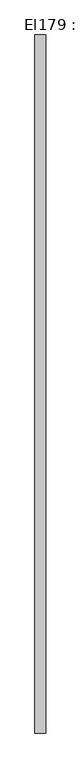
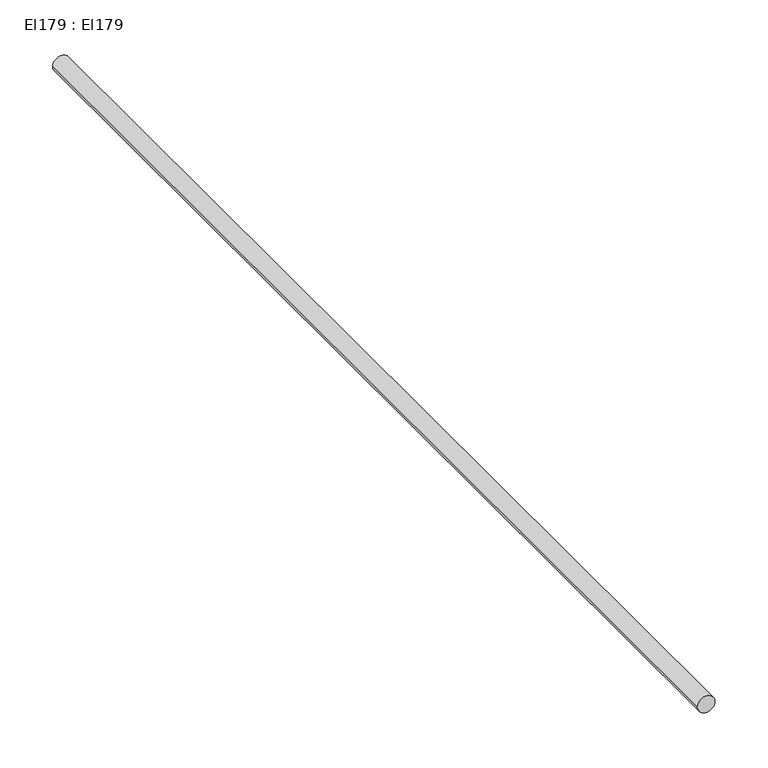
"""IFC4 building model written with IfcOpenShell, lengths in millimetres: cable carrier segment geometry, El179 : El179."""

from ifc_helpers import new_model, si_unit, point, frame, frame_2d, origin, place, context, project, spatial, circle_curve, trimmed, segment, composite_curve, outline, extrude, source, transform, mapped, element, save


def el179_el179_9f93fd7f(model_context):
    return source(origin(), model_context, "Body", "SweptSolid", [
        extrude(outline(composite_curve([segment(trimmed(circle_curve(frame_2d((300.0, 6550.0)), 9.5), [point((300.0, 6540.5))], [point((300.0, 6559.5))], False, "CARTESIAN"), True, "CONTINUOUS"), segment(trimmed(circle_curve(frame_2d((300.0, 6550.0)), 9.5), [point((300.0, 6559.5))], [point((300.0, 6540.5))], False, "CARTESIAN"), True, "CONTINUOUS")], self_intersect=False)), frame((0.0, 32053.661, 0.0), z_axis=(0.0, 1.0, 0.0), x_axis=(0.0, 0.0, 1.0)), (0.0, 0.0, 1.0), 1224.28),
    ])


if __name__ == "__main__":
    model = new_model("IFC4")
    model_context = context("Model", 3, world=origin())
    ifc_project = project(units=[si_unit("LENGTHUNIT", "METRE", prefix="MILLI")], contexts=[model_context])
    site = spatial("IfcSite", under=ifc_project)
    building = spatial("IfcBuilding", under=site)
    placement = place(None, origin())
    el179_el179_shape = el179_el179_9f93fd7f(model_context)
    element("IfcCableCarrierSegment", 1, ObjectType="El179 : El179", at=placement, inside=building, context=model_context, shape_type="MappedRepresentation", body=[
        mapped(el179_el179_shape, transform((0.0, 0.0, 0.0), x_axis=(1.0, 0.0, 0.0), y_axis=(0.0, 1.0, 0.0), z_axis=(0.0, 0.0, 1.0))),
    ])
    save(model, "model.ifc")
